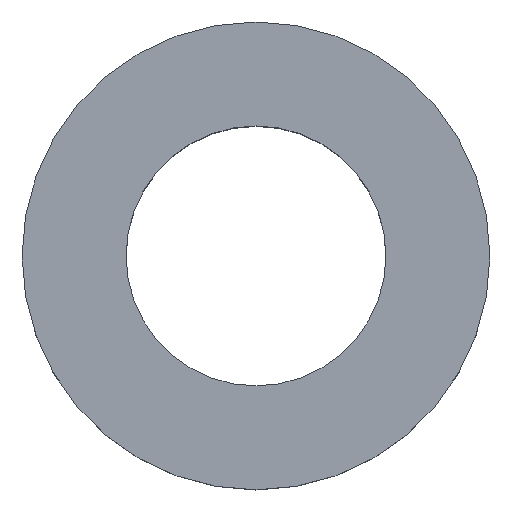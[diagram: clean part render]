
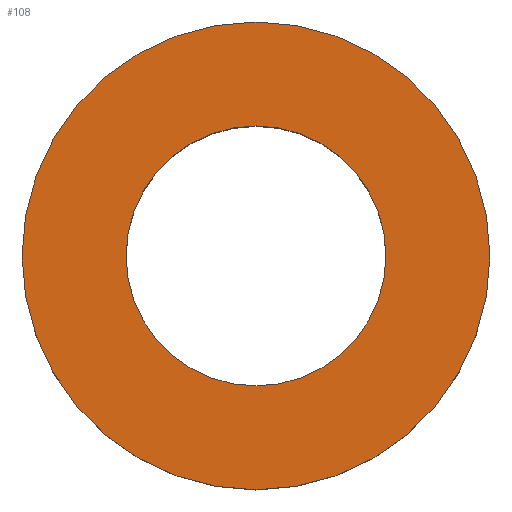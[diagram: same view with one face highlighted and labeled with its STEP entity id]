
A CAD part, top view. The second image highlights one B-rep face of the part: STEP entity #108.
In plain terms, the highlighted planar face has unit normal (0, 0, 1).
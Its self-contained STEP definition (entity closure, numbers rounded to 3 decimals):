
#97=PLANE('',#238);
#100=FACE_BOUND('',#129,.T.);
#101=FACE_BOUND('',#130,.T.);
#108=ADVANCED_FACE('',(#100,#101),#97,.T.);
#129=EDGE_LOOP('',(#159,#160));
#130=EDGE_LOOP('',(#161,#162));
#139=CIRCLE('',#230,9.);
#142=CIRCLE('',#234,9.);
#143=CIRCLE('',#236,5.);
#144=CIRCLE('',#237,5.);
#159=ORIENTED_EDGE('',*,*,#204,.T.);
#160=ORIENTED_EDGE('',*,*,#200,.T.);
#161=ORIENTED_EDGE('',*,*,#205,.F.);
#162=ORIENTED_EDGE('',*,*,#206,.F.);
#188=VERTEX_POINT('',#304);
#189=VERTEX_POINT('',#306);
#191=VERTEX_POINT('',#315);
#192=VERTEX_POINT('',#316);
#200=EDGE_CURVE('',#189,#188,#139,.T.);
#204=EDGE_CURVE('',#188,#189,#142,.T.);
#205=EDGE_CURVE('',#191,#192,#143,.T.);
#206=EDGE_CURVE('',#192,#191,#144,.T.);
#230=AXIS2_PLACEMENT_3D('',#305,#254,#255);
#234=AXIS2_PLACEMENT_3D('',#312,#263,#264);
#236=AXIS2_PLACEMENT_3D('',#314,#267,#268);
#237=AXIS2_PLACEMENT_3D('',#317,#269,#270);
#238=AXIS2_PLACEMENT_3D('',#318,#271,#272);
#254=DIRECTION('',(0.,0.,1.));
#255=DIRECTION('',(0.,-1.,0.));
#263=DIRECTION('',(0.,0.,1.));
#264=DIRECTION('',(0.,1.,0.));
#267=DIRECTION('',(0.,0.,1.));
#268=DIRECTION('',(0.,-1.,0.));
#269=DIRECTION('',(0.,0.,1.));
#270=DIRECTION('',(0.,1.,0.));
#271=DIRECTION('',(0.,0.,1.));
#272=DIRECTION('',(0.,1.,0.));
#304=CARTESIAN_POINT('',(-9.,0.,3.));
#305=CARTESIAN_POINT('',(0.,0.,3.));
#306=CARTESIAN_POINT('',(9.,0.,3.));
#312=CARTESIAN_POINT('',(0.,0.,3.));
#314=CARTESIAN_POINT('',(0.,0.,3.));
#315=CARTESIAN_POINT('',(5.,0.,3.));
#316=CARTESIAN_POINT('',(-5.,0.,3.));
#317=CARTESIAN_POINT('',(0.,0.,3.));
#318=CARTESIAN_POINT('',(0.,0.,3.));
